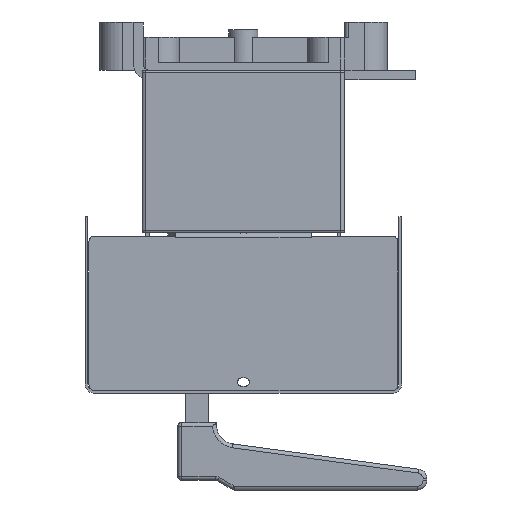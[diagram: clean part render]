
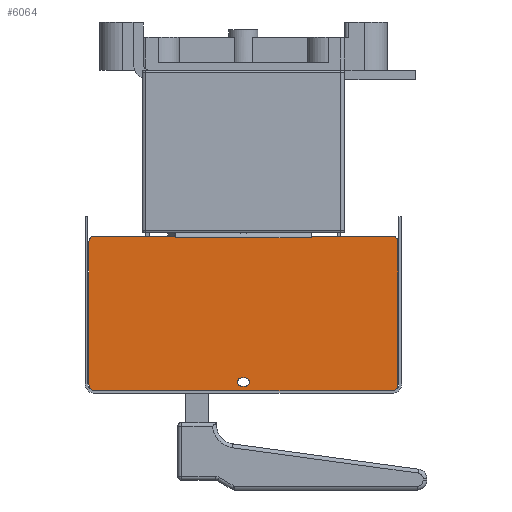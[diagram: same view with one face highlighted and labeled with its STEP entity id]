
A CAD part, left-side view. The second image highlights one B-rep face of the part: STEP entity #6064.
In plain terms, the highlighted planar face has unit normal (-1, 0, 0).
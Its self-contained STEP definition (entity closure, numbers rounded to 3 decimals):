
#643=FACE_BOUND('',#9168,.T.);
#644=FACE_BOUND('',#9169,.T.);
#2246=LINE('',#34194,#4519);
#2253=LINE('',#34212,#4526);
#2259=LINE('',#34229,#4532);
#2263=LINE('',#34242,#4536);
#2268=LINE('',#34259,#4541);
#2269=LINE('',#34264,#4542);
#2274=LINE('',#34277,#4547);
#2275=LINE('',#34279,#4548);
#2276=LINE('',#34281,#4549);
#2277=LINE('',#34283,#4550);
#2278=LINE('',#34285,#4551);
#2279=LINE('',#34287,#4552);
#4519=VECTOR('',#27718,1.);
#4526=VECTOR('',#27731,1.);
#4532=VECTOR('',#27745,1.);
#4536=VECTOR('',#27757,1.);
#4541=VECTOR('',#27776,1.);
#4542=VECTOR('',#27785,1.);
#4547=VECTOR('',#27798,1.);
#4548=VECTOR('',#27801,1.);
#4549=VECTOR('',#27802,1.);
#4550=VECTOR('',#27803,1.);
#4551=VECTOR('',#27804,1.);
#4552=VECTOR('',#27805,1.);
#6064=ADVANCED_FACE('',(#643,#644),#7010,.T.);
#7010=PLANE('',#23205);
#9168=EDGE_LOOP('',(#13435,#13436,#13437,#13438,#13439,#13440,#13441,#13442,
#13443,#13444,#13445,#13446,#13447,#13448));
#9169=EDGE_LOOP('',(#13449,#13450,#13451,#13452));
#13435=ORIENTED_EDGE('',*,*,#19995,.F.);
#13436=ORIENTED_EDGE('',*,*,#19996,.T.);
#13437=ORIENTED_EDGE('',*,*,#19997,.T.);
#13438=ORIENTED_EDGE('',*,*,#19998,.T.);
#13439=ORIENTED_EDGE('',*,*,#19999,.F.);
#13440=ORIENTED_EDGE('',*,*,#19987,.T.);
#13441=ORIENTED_EDGE('',*,*,#19992,.T.);
#13442=ORIENTED_EDGE('',*,*,#19975,.T.);
#13443=ORIENTED_EDGE('',*,*,#19978,.T.);
#13444=ORIENTED_EDGE('',*,*,#19953,.T.);
#13445=ORIENTED_EDGE('',*,*,#19981,.T.);
#13446=ORIENTED_EDGE('',*,*,#19984,.T.);
#13447=ORIENTED_EDGE('',*,*,#19986,.T.);
#13448=ORIENTED_EDGE('',*,*,#19961,.T.);
#13449=ORIENTED_EDGE('',*,*,#19965,.T.);
#13450=ORIENTED_EDGE('',*,*,#19969,.T.);
#13451=ORIENTED_EDGE('',*,*,#19972,.T.);
#13452=ORIENTED_EDGE('',*,*,#19994,.T.);
#16940=VERTEX_POINT('',#33023);
#16985=VERTEX_POINT('',#33120);
#17269=VERTEX_POINT('',#34211);
#17270=VERTEX_POINT('',#34213);
#17273=VERTEX_POINT('',#34220);
#17274=VERTEX_POINT('',#34222);
#17276=VERTEX_POINT('',#34228);
#17278=VERTEX_POINT('',#34234);
#17281=VERTEX_POINT('',#34241);
#17282=VERTEX_POINT('',#34243);
#17284=VERTEX_POINT('',#34252);
#17286=VERTEX_POINT('',#34258);
#17287=VERTEX_POINT('',#34265);
#17288=VERTEX_POINT('',#34266);
#17291=VERTEX_POINT('',#34280);
#17292=VERTEX_POINT('',#34282);
#17293=VERTEX_POINT('',#34284);
#17294=VERTEX_POINT('',#34286);
#19953=EDGE_CURVE('',#16940,#16985,#2246,.T.);
#19961=EDGE_CURVE('',#17270,#17269,#2253,.T.);
#19965=EDGE_CURVE('',#17274,#17273,#21674,.T.);
#19969=EDGE_CURVE('',#17273,#17276,#2259,.T.);
#19972=EDGE_CURVE('',#17276,#17278,#21676,.T.);
#19975=EDGE_CURVE('',#17282,#17281,#2263,.T.);
#19978=EDGE_CURVE('',#17281,#16940,#21678,.T.);
#19981=EDGE_CURVE('',#16985,#17284,#21680,.T.);
#19984=EDGE_CURVE('',#17284,#17286,#2268,.T.);
#19986=EDGE_CURVE('',#17286,#17270,#21682,.T.);
#19987=EDGE_CURVE('',#17287,#17288,#2269,.T.);
#19992=EDGE_CURVE('',#17288,#17282,#21684,.T.);
#19994=EDGE_CURVE('',#17278,#17274,#2274,.T.);
#19995=EDGE_CURVE('',#17291,#17269,#2275,.T.);
#19996=EDGE_CURVE('',#17291,#17292,#2276,.T.);
#19997=EDGE_CURVE('',#17292,#17293,#2277,.T.);
#19998=EDGE_CURVE('',#17293,#17294,#2278,.T.);
#19999=EDGE_CURVE('',#17287,#17294,#2279,.T.);
#21674=CIRCLE('',#23183,2.1);
#21676=CIRCLE('',#23187,2.1);
#21678=CIRCLE('',#23191,3.);
#21680=CIRCLE('',#23194,3.);
#21682=CIRCLE('',#23198,3.);
#21684=CIRCLE('',#23202,3.);
#23183=AXIS2_PLACEMENT_3D('',#34221,#27738,#27739);
#23187=AXIS2_PLACEMENT_3D('',#34235,#27751,#27752);
#23191=AXIS2_PLACEMENT_3D('',#34247,#27763,#27764);
#23194=AXIS2_PLACEMENT_3D('',#34253,#27770,#27771);
#23198=AXIS2_PLACEMENT_3D('',#34262,#27781,#27782);
#23202=AXIS2_PLACEMENT_3D('',#34274,#27793,#27794);
#23205=AXIS2_PLACEMENT_3D('',#34288,#27806,#27807);
#27718=DIRECTION('',(0.,-1.,0.));
#27731=DIRECTION('',(0.,1.,0.));
#27738=DIRECTION('',(1.,0.,0.));
#27739=DIRECTION('',(0.,1.,0.));
#27745=DIRECTION('',(0.,-1.,0.));
#27751=DIRECTION('',(1.,0.,0.));
#27752=DIRECTION('',(0.,1.,0.));
#27757=DIRECTION('',(0.,0.,-1.));
#27763=DIRECTION('',(-1.,0.,0.));
#27764=DIRECTION('',(0.,1.,0.));
#27770=DIRECTION('',(-1.,0.,0.));
#27771=DIRECTION('',(0.,1.,0.));
#27776=DIRECTION('',(0.,0.,1.));
#27781=DIRECTION('',(-1.,0.,0.));
#27782=DIRECTION('',(0.,1.,0.));
#27785=DIRECTION('',(0.,1.,0.));
#27793=DIRECTION('',(-1.,0.,0.));
#27794=DIRECTION('',(0.,1.,0.));
#27798=DIRECTION('',(0.,1.,0.));
#27801=DIRECTION('',(0.,0.,1.));
#27802=DIRECTION('',(0.,1.,0.));
#27803=DIRECTION('',(0.,1.,0.));
#27804=DIRECTION('',(0.,1.,0.));
#27805=DIRECTION('',(0.,0.,-1.));
#27806=DIRECTION('',(-1.,0.,0.));
#27807=DIRECTION('',(0.,-1.,0.));
#33023=CARTESIAN_POINT('',(-189.3,77.,-165.8));
#33120=CARTESIAN_POINT('',(-189.3,-77.,-165.8));
#34194=CARTESIAN_POINT('',(-189.3,77.,-165.8));
#34211=CARTESIAN_POINT('',(-189.3,-35.002,-85.8));
#34212=CARTESIAN_POINT('',(-189.3,-77.,-85.8));
#34213=CARTESIAN_POINT('',(-189.3,-77.,-85.8));
#34220=CARTESIAN_POINT('',(-189.3,1.,-159.3));
#34221=CARTESIAN_POINT('',(-189.3,1.,-161.4));
#34222=CARTESIAN_POINT('',(-189.3,1.,-163.5));
#34228=CARTESIAN_POINT('',(-189.3,-1.,-159.3));
#34229=CARTESIAN_POINT('',(-189.3,1.,-159.3));
#34234=CARTESIAN_POINT('',(-189.3,-1.,-163.5));
#34235=CARTESIAN_POINT('',(-189.3,-1.,-161.4));
#34241=CARTESIAN_POINT('',(-189.3,80.,-162.8));
#34242=CARTESIAN_POINT('',(-189.3,80.,-88.8));
#34243=CARTESIAN_POINT('',(-189.3,80.,-88.8));
#34247=CARTESIAN_POINT('',(-189.3,77.,-162.8));
#34252=CARTESIAN_POINT('',(-189.3,-80.,-162.8));
#34253=CARTESIAN_POINT('',(-189.3,-77.,-162.8));
#34258=CARTESIAN_POINT('',(-189.3,-80.,-88.8));
#34259=CARTESIAN_POINT('',(-189.3,-80.,-162.8));
#34262=CARTESIAN_POINT('',(-189.3,-77.,-88.8));
#34264=CARTESIAN_POINT('',(-189.3,-77.,-85.8));
#34265=CARTESIAN_POINT('',(-189.3,35.002,-85.8));
#34266=CARTESIAN_POINT('',(-189.3,77.,-85.8));
#34274=CARTESIAN_POINT('',(-189.3,77.,-88.8));
#34277=CARTESIAN_POINT('',(-189.3,-1.,-163.5));
#34279=CARTESIAN_POINT('',(-189.3,-35.002,-162.8));
#34280=CARTESIAN_POINT('',(-189.3,-35.002,-86.8));
#34281=CARTESIAN_POINT('',(-189.3,77.,-86.8));
#34282=CARTESIAN_POINT('',(-189.3,-35.,-86.8));
#34283=CARTESIAN_POINT('',(-189.3,50.5,-86.8));
#34284=CARTESIAN_POINT('',(-189.3,35.,-86.8));
#34285=CARTESIAN_POINT('',(-189.3,77.,-86.8));
#34286=CARTESIAN_POINT('',(-189.3,35.002,-86.8));
#34287=CARTESIAN_POINT('',(-189.3,35.002,-162.8));
#34288=CARTESIAN_POINT('',(-189.3,77.,-162.8));
